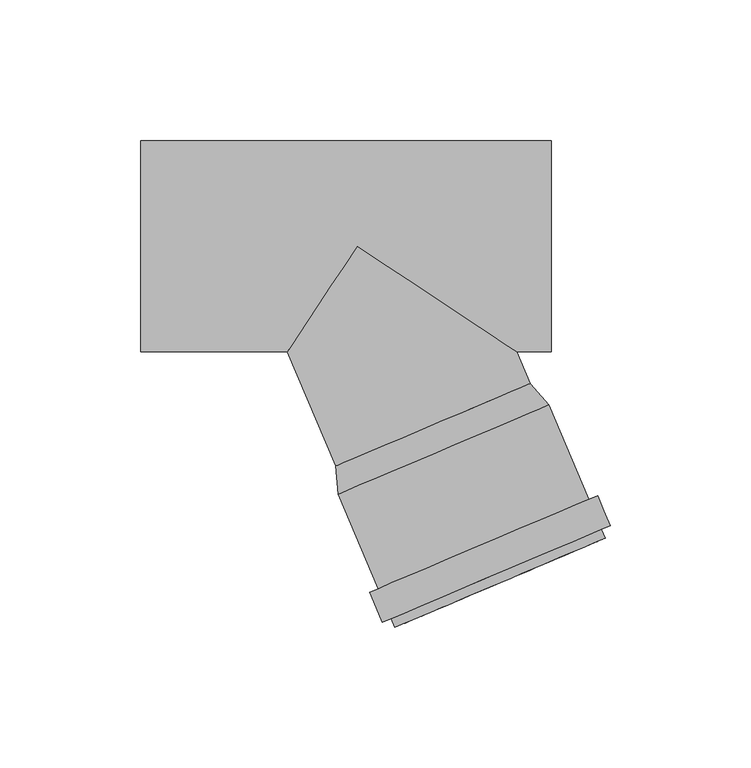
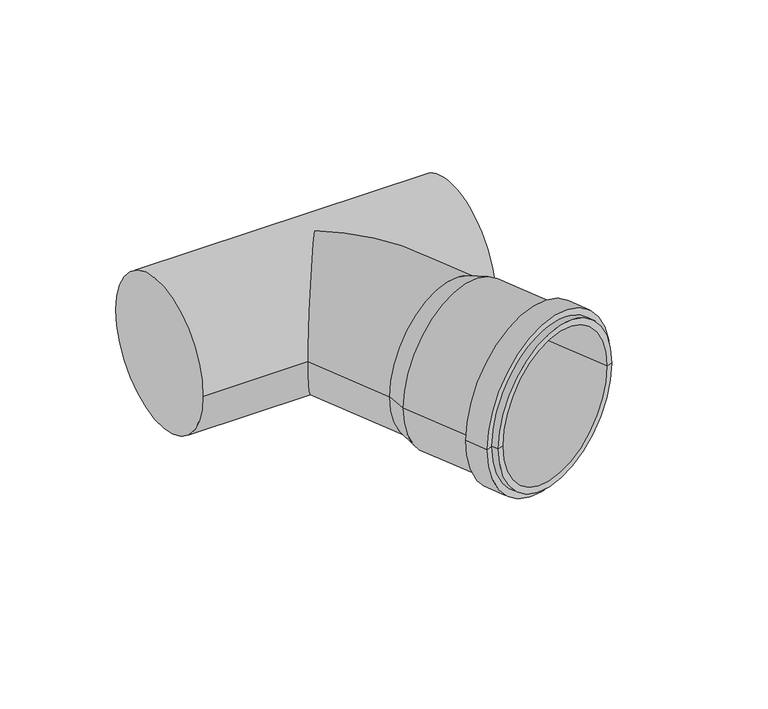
"""IFC4 building model written with IfcOpenShell, lengths in millimetres: pipe fitting geometry, pf_HTEA : pf_HTEA."""

from ifc_helpers import new_model, si_unit, frame, origin, place, context, project, spatial, polyline, circle_curve, ellipse_curve, source, transform, mapped, element, save
from ifc_brep_helpers import plane_surface, cylinder_surface, revolved_surface, advanced_brep


def pipe_fitting_4ba81610(model_context):
    return source(origin(), model_context, "Body", "AdvancedBrep", [
        advanced_brep(
        [(-7.5584841, -78.1672522, 0.0), (61.4793799, -48.8624176, 0.0), (68.0448906, -56.3959472, 0.0), (-6.7001035, -88.1233148, 0.0), (26.9604479, -63.5148349, 0.0), (13.4225497, -135.5293148, 0.0), (88.1675438, -103.8019471, 0.0), (85.3139787, -105.0132136, 0.0), (16.2761147, -134.3180483, 0.0), (12.0940638, -132.3995983, 0.0), (86.8390579, -100.6722306, 0.0), (8.9643473, -133.7280841, 0.0), (89.9687744, -99.3437448, 0.0), (4.4318662, -123.0502278, 0.0), (85.4362933, -88.6658885, 0.0), (7.5615827, -121.721742, 0.0), (82.3065768, -89.9943743, 0.0), (-3.8465384, -86.9120483, 0.0), (65.1913256, -57.6072137, 0.0), (30.6723936, -72.259631, 0.0)],
        [
            (0, 1, circle_curve(frame((26.9604479, -63.5148349, 0.0), z_axis=(0.39073112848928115, -0.9205048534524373, 0.0), x_axis=(0.9205048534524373, 0.39073112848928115, 0.0)), 37.5)),
            (1, 2),
            (2, 3, circle_curve(frame((30.6723936, -72.259631, 0.0), z_axis=(-0.39073112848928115, 0.9205048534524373, 0.0), x_axis=(0.9205048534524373, 0.39073112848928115, 0.0)), 40.6)),
            (3, 0),
            (1, 0, circle_curve(frame((26.9604479, -63.5148349, 0.0), z_axis=(0.39073112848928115, -0.9205048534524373, 0.0), x_axis=(0.9205048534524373, 0.39073112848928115, 0.0)), 37.5)),
            (3, 2, circle_curve(frame((30.6723936, -72.259631, 0.0), z_axis=(-0.39073112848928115, 0.9205048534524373, 0.0), x_axis=(0.9205048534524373, 0.39073112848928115, 0.0)), 40.6)),
            (4, 1),
            (0, 4),
            (5, 6, circle_curve(frame((50.7950467, -119.6656309, 0.0), z_axis=(0.39073112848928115, -0.9205048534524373, 0.0), x_axis=(0.9205048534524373, 0.39073112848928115, 0.0)), 40.6)),
            (6, 7),
            (7, 8, circle_curve(frame((50.7950467, -119.6656309, 0.0), z_axis=(-0.39073112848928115, 0.9205048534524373, 0.0), x_axis=(0.9205048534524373, 0.39073112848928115, 0.0)), 37.5)),
            (8, 5),
            (6, 5, circle_curve(frame((50.7950467, -119.6656309, 0.0), z_axis=(0.39073112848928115, -0.9205048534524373, 0.0), x_axis=(0.9205048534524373, 0.39073112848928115, 0.0)), 40.6)),
            (8, 7, circle_curve(frame((50.7950467, -119.6656309, 0.0), z_axis=(-0.39073112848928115, 0.9205048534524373, 0.0), x_axis=(0.9205048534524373, 0.39073112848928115, 0.0)), 37.5)),
            (9, 10, circle_curve(frame((49.4665609, -116.5359144, 0.0), z_axis=(0.39073112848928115, -0.9205048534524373, 0.0), x_axis=(0.9205048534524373, 0.39073112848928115, 0.0)), 40.6)),
            (10, 6),
            (5, 9),
            (10, 9, circle_curve(frame((49.4665609, -116.5359144, 0.0), z_axis=(0.39073112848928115, -0.9205048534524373, 0.0), x_axis=(0.9205048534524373, 0.39073112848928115, 0.0)), 40.6)),
            (11, 12, circle_curve(frame((49.4665609, -116.5359144, 0.0), z_axis=(0.39073112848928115, -0.9205048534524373, 0.0), x_axis=(0.9205048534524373, 0.39073112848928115, 0.0)), 44.0)),
            (12, 10),
            (9, 11),
            (12, 11, circle_curve(frame((49.4665609, -116.5359144, 0.0), z_axis=(0.39073112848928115, -0.9205048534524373, 0.0), x_axis=(0.9205048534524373, 0.39073112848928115, 0.0)), 44.0)),
            (13, 14, circle_curve(frame((44.9340798, -105.8580581, 0.0), z_axis=(0.39073112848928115, -0.9205048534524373, 0.0), x_axis=(0.9205048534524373, 0.39073112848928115, 0.0)), 44.0)),
            (14, 12),
            (11, 13),
            (14, 13, circle_curve(frame((44.9340798, -105.8580581, 0.0), z_axis=(0.39073112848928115, -0.9205048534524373, 0.0), x_axis=(0.9205048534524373, 0.39073112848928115, 0.0)), 44.0)),
            (15, 16, circle_curve(frame((44.9340798, -105.8580581, 0.0), z_axis=(0.39073112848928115, -0.9205048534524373, 0.0), x_axis=(0.9205048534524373, 0.39073112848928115, 0.0)), 40.6)),
            (16, 14),
            (13, 15),
            (16, 15, circle_curve(frame((44.9340798, -105.8580581, 0.0), z_axis=(0.39073112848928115, -0.9205048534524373, 0.0), x_axis=(0.9205048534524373, 0.39073112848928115, 0.0)), 40.6)),
            (2, 16),
            (15, 3),
            (17, 18, circle_curve(frame((30.6723936, -72.259631, 0.0), z_axis=(0.39073112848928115, -0.9205048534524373, 0.0), x_axis=(0.9205048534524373, 0.39073112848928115, 0.0)), 37.5)),
            (18, 19),
            (19, 17),
            (18, 17, circle_curve(frame((30.6723936, -72.259631, 0.0), z_axis=(0.39073112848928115, -0.9205048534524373, 0.0), x_axis=(0.9205048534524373, 0.39073112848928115, 0.0)), 37.5)),
            (7, 18),
            (17, 8),
        ],
        [
            revolved_surface(polyline([(68.0448906, -56.3959472, 0.0), (61.4793799, -48.8624176, 0.0)]), (26.9604479, -63.5148349, 0.0), (-0.39073112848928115, 0.9205048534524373, 0.0)),
            plane_surface(frame((26.9604479, -63.5148349, 0.0), z_axis=(-0.39073112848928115, 0.9205048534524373, 0.0), x_axis=(0.9205048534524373, 0.39073112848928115, 0.0))),
            plane_surface(frame((50.7950467, -119.6656309, 0.0), z_axis=(0.39073112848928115, -0.9205048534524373, 0.0), x_axis=(0.9205048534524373, 0.39073112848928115, 0.0))),
            cylinder_surface(frame((26.9604479, -63.5148349, 0.0), z_axis=(-0.39073112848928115, 0.9205048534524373, 0.0), x_axis=(0.9205048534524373, 0.39073112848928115, 0.0)), 40.6),
            plane_surface(frame((49.4665609, -116.5359144, 0.0), z_axis=(0.39073112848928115, -0.9205048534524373, 0.0), x_axis=(0.9205048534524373, 0.39073112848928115, 0.0))),
            cylinder_surface(frame((26.9604479, -63.5148349, 0.0), z_axis=(-0.39073112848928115, 0.9205048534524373, 0.0), x_axis=(0.9205048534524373, 0.39073112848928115, 0.0)), 44.0),
            plane_surface(frame((44.9340798, -105.8580581, 0.0), z_axis=(-0.39073112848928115, 0.9205048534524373, 0.0), x_axis=(0.9205048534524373, 0.39073112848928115, 0.0))),
            plane_surface(frame((30.6723936, -72.259631, 0.0), z_axis=(0.39073112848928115, -0.9205048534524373, 0.0), x_axis=(0.9205048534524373, 0.39073112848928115, 0.0))),
            revolved_surface(polyline([(65.19132561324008, -57.607213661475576, 0.0), (85.31397874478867, -105.01321364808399, 0.0)]), (26.9604479, -63.5148349, 0.0), (-0.39073112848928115, 0.9205048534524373, 0.0)),
        ],
        [
            (0, [[1, 2, 3, 4]]),
            (0, [[5, -4, 6, -2]]),
            (1, [[7, -1, 8]]),
            (1, [[-8, -5, -7]]),
            (2, [[9, 10, 11, 12]]),
            (2, [[13, -12, 14, -10]]),
            (3, [[15, 16, -9, 17]]),
            (3, [[18, -17, -13, -16]]),
            (4, [[19, 20, -15, 21]]),
            (4, [[22, -21, -18, -20]]),
            (5, [[23, 24, -19, 25]]),
            (5, [[26, -25, -22, -24]]),
            (6, [[27, 28, -23, 29]]),
            (6, [[30, -29, -26, -28]]),
            (3, [[-3, 31, -27, 32]]),
            (3, [[-6, -32, -30, -31]]),
            (7, [[33, 34, 35]]),
            (7, [[36, -35, -34]]),
            (8, [[-11, 37, -33, 38]]),
            (8, [[-14, -38, -36, -37]]),
        ],
    ),
        advanced_brep(
        [(-7.5584841, -78.1672522, 0.0), (61.4793799, -48.8624176, 0.0), (-77.0, -37.5, 0.0), (-77.0, 37.5, 0.0), (69.0, -37.5, 0.0), (69.0, 37.5, 0.0), (-24.8207085, -37.5, 0.0), (0.0, 0.0, 37.5), (56.6563198, -37.5, 0.0), (0.0, 0.0, -37.5)],
        [
            (0, 1, circle_curve(frame((26.9604479, -63.5148349, 0.0), z_axis=(0.39073112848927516, -0.9205048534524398, 0.0), x_axis=(0.9205048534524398, 0.39073112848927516, 0.0)), 37.5)),
            (1, 0, circle_curve(frame((26.9604479, -63.5148349, 0.0), z_axis=(0.39073112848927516, -0.9205048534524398, 0.0), x_axis=(0.9205048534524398, 0.39073112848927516, 0.0)), 37.5)),
            (2, 3, circle_curve(frame((-77.0, 0.0, 0.0), z_axis=(-1.0, 0.0, 0.0), x_axis=(0.0, 1.0, 0.0)), 37.5)),
            (3, 2, circle_curve(frame((-77.0, 0.0, 0.0), z_axis=(-1.0, 0.0, 0.0), x_axis=(0.0, 1.0, 0.0)), 37.5)),
            (4, 5, circle_curve(frame((69.0, 0.0, 0.0), z_axis=(1.0, 0.0, 0.0), x_axis=(0.0, 1.0, 0.0)), 37.5)),
            (5, 4, circle_curve(frame((69.0, 0.0, 0.0), z_axis=(1.0, 0.0, 0.0), x_axis=(0.0, 1.0, 0.0)), 37.5)),
            (2, 6),
            (6, 7, ellipse_curve(frame((0.0, 0.0, 0.0), z_axis=(-0.8338858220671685, 0.5519369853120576, 0.0), x_axis=(-0.5519369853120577, -0.8338858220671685, 0.0)), 44.9701854, 37.5)),
            (7, 8, ellipse_curve(frame((0.0, 0.0, 0.0), z_axis=(0.5519369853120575, 0.8338858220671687, 0.0), x_axis=(-0.8338858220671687, 0.5519369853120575, 0.0)), 67.9425387, 37.5)),
            (8, 4),
            (5, 3),
            (8, 9, ellipse_curve(frame((0.0, 0.0, 0.0), z_axis=(0.5519369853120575, 0.8338858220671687, 0.0), x_axis=(-0.8338858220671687, 0.5519369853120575, 0.0)), 67.9425387, 37.5)),
            (9, 6, ellipse_curve(frame((0.0, 0.0, 0.0), z_axis=(-0.8338858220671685, 0.5519369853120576, 0.0), x_axis=(-0.5519369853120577, -0.8338858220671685, 0.0)), 44.9701854, 37.5)),
            (1, 8),
            (6, 0),
        ],
        [
            plane_surface(frame((26.9604479, -63.5148349, 0.0), z_axis=(0.39073112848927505, -0.9205048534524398, 0.0), x_axis=(0.0, 0.0, 1.0))),
            plane_surface(frame((-77.0, 0.0, 0.0), z_axis=(-1.0, 0.0, 0.0), x_axis=(0.0, 0.0, 1.0))),
            plane_surface(frame((69.0, 0.0, 0.0), z_axis=(1.0, 0.0, 0.0), x_axis=(0.0, 0.0, 1.0))),
            cylinder_surface(frame((-77.0, 0.0, 0.0), z_axis=(-1.0, 0.0, 0.0), x_axis=(0.0, 1.0, 0.0)), 37.5),
            cylinder_surface(frame((0.0, 0.0, 0.0), z_axis=(-0.39073112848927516, 0.9205048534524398, 0.0), x_axis=(0.9205048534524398, 0.39073112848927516, 0.0)), 37.5),
        ],
        [
            (0, [[1, 2]]),
            (1, [[3, 4]]),
            (2, [[5, 6]]),
            (3, [[-3, 7, 8, 9, 10, -6, 11]]),
            (3, [[-4, -11, -5, -10, 12, 13, -7]]),
            (4, [[-2, 14, -9, -8, 15]]),
            (4, [[-1, -15, -13, -12, -14]]),
        ],
    ),
    ])


if __name__ == "__main__":
    model = new_model("IFC4")
    model_context = context("Model", 3, world=origin())
    ifc_project = project(units=[si_unit("LENGTHUNIT", "METRE", prefix="MILLI")], contexts=[model_context])
    site = spatial("IfcSite", under=ifc_project)
    building = spatial("IfcBuilding", under=site)
    placement = place(None, origin())
    pipe_fitting_shape = pipe_fitting_4ba81610(model_context)
    element("IfcPipeFitting", 1, ObjectType="pf_HTEA : pf_HTEA", at=placement, inside=building, context=model_context, shape_type="MappedRepresentation", body=[
        mapped(pipe_fitting_shape, transform((0.0, 0.0, 0.0), x_axis=(1.0, 0.0, 0.0), y_axis=(0.0, 1.0, 0.0), z_axis=(0.0, 0.0, 1.0))),
    ])
    save(model, "model.ifc")
